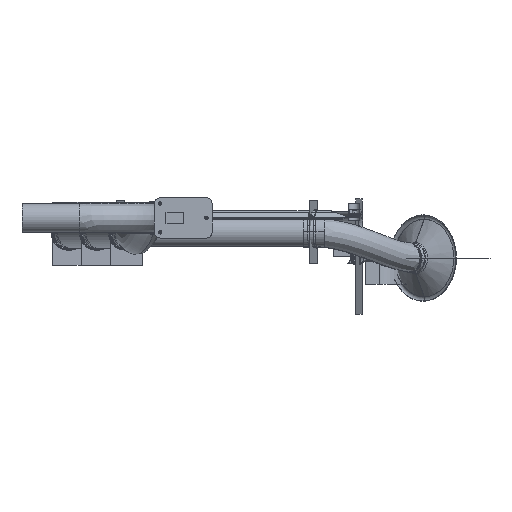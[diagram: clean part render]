
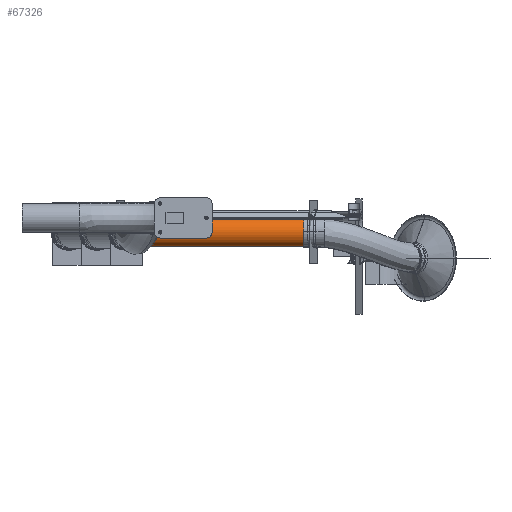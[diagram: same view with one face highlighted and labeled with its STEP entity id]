
A CAD part, left-side view. The second image highlights one B-rep face of the part: STEP entity #67326.
In plain terms, the highlighted free-form (B-spline) face has degree [3, 3] with [7, 6] control points.
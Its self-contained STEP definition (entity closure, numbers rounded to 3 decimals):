
#66357=CARTESIAN_POINT('',(1152.215,-562.358,-47.));
#66358=DIRECTION('',(0.,1.,0.));
#66359=DIRECTION('',(-0.193,0.,-0.981));
#66360=AXIS2_PLACEMENT_3D('',#66357,#66358,#66359);
#66365=CARTESIAN_POINT('',(1142.569,-562.358,
-96.061));
#66366=CARTESIAN_POINT('',(1142.569,-485.691,
-96.061));
#66367=CARTESIAN_POINT('',(1142.569,-332.358,
-96.061));
#66368=CARTESIAN_POINT('',(1142.569,-102.358,
-96.061));
#66369=CARTESIAN_POINT('',(1142.569,50.975,
-96.061));
#66370=CARTESIAN_POINT('',(1142.569,127.642,
-96.061));
#66383=CARTESIAN_POINT('',(1161.86,-562.358,
2.061));
#66384=CARTESIAN_POINT('',(1161.86,-485.691,
2.061));
#66385=CARTESIAN_POINT('',(1161.86,-332.358,
2.061));
#66386=CARTESIAN_POINT('',(1161.86,-102.358,
2.061));
#66387=CARTESIAN_POINT('',(1161.86,50.975,2.061));
#66388=CARTESIAN_POINT('',(1161.86,127.642,2.061));
#66464=CARTESIAN_POINT('',(1152.215,127.642,-47.));
#66465=DIRECTION('',(0.,1.,0.));
#66466=DIRECTION('',(-0.193,0.,-0.981));
#66467=AXIS2_PLACEMENT_3D('',#66464,#66465,#66466);
#66951=CARTESIAN_POINT('',(1161.86,-562.358,
2.061));
#66952=CARTESIAN_POINT('',(1142.569,-562.358,
-96.061));
#66953=VERTEX_POINT('',#66951);
#66954=VERTEX_POINT('',#66952);
#66955=CARTESIAN_POINT('',(1161.86,127.642,2.061));
#66956=CARTESIAN_POINT('',(1142.569,127.642,
-96.061));
#66957=VERTEX_POINT('',#66955);
#66958=VERTEX_POINT('',#66956);
#67274=CARTESIAN_POINT('',(1145.669,-576.158,
-96.57));
#67275=CARTESIAN_POINT('',(1145.669,-571.558,
-96.57));
#67276=CARTESIAN_POINT('',(1145.669,-336.958,
-96.57));
#67277=CARTESIAN_POINT('',(1145.669,-97.758,
-96.57));
#67278=CARTESIAN_POINT('',(1145.669,136.842,
-96.57));
#67279=CARTESIAN_POINT('',(1145.669,141.442,
-96.57));
#67280=CARTESIAN_POINT('',(1115.164,-576.158,
-92.541));
#67281=CARTESIAN_POINT('',(1115.164,-571.558,
-92.541));
#67282=CARTESIAN_POINT('',(1115.164,-336.958,
-92.541));
#67283=CARTESIAN_POINT('',(1115.164,-97.758,
-92.541));
#67284=CARTESIAN_POINT('',(1115.164,136.842,
-92.541));
#67285=CARTESIAN_POINT('',(1115.164,141.442,
-92.541));
#67286=CARTESIAN_POINT('',(1097.218,-576.158,
-67.546));
#67287=CARTESIAN_POINT('',(1097.218,-571.558,
-67.546));
#67288=CARTESIAN_POINT('',(1097.218,-336.958,
-67.546));
#67289=CARTESIAN_POINT('',(1097.218,-97.758,
-67.546));
#67290=CARTESIAN_POINT('',(1097.218,136.842,
-67.546));
#67291=CARTESIAN_POINT('',(1097.218,141.442,
-67.546));
#67292=CARTESIAN_POINT('',(1103.154,-576.158,
-37.355));
#67293=CARTESIAN_POINT('',(1103.154,-571.558,
-37.355));
#67294=CARTESIAN_POINT('',(1103.154,-336.958,
-37.355));
#67295=CARTESIAN_POINT('',(1103.154,-97.758,
-37.355));
#67296=CARTESIAN_POINT('',(1103.154,136.842,
-37.355));
#67297=CARTESIAN_POINT('',(1103.154,141.442,
-37.355));
#67298=CARTESIAN_POINT('',(1109.09,-576.158,
-7.163));
#67299=CARTESIAN_POINT('',(1109.09,-571.558,
-7.163));
#67300=CARTESIAN_POINT('',(1109.09,-336.958,
-7.163));
#67301=CARTESIAN_POINT('',(1109.09,-97.758,
-7.163));
#67302=CARTESIAN_POINT('',(1109.09,136.842,
-7.163));
#67303=CARTESIAN_POINT('',(1109.09,141.442,
-7.163));
#67304=CARTESIAN_POINT('',(1135.162,-576.158,
9.178));
#67305=CARTESIAN_POINT('',(1135.162,-571.558,
9.178));
#67306=CARTESIAN_POINT('',(1135.162,-336.958,
9.178));
#67307=CARTESIAN_POINT('',(1135.162,-97.758,
9.178));
#67308=CARTESIAN_POINT('',(1135.162,136.842,9.178));
#67309=CARTESIAN_POINT('',(1135.162,141.442,9.178));
#67310=CARTESIAN_POINT('',(1164.922,-576.158,
1.358));
#67311=CARTESIAN_POINT('',(1164.922,-571.558,
1.358));
#67312=CARTESIAN_POINT('',(1164.922,-336.958,
1.358));
#67313=CARTESIAN_POINT('',(1164.922,-97.758,
1.358));
#67314=CARTESIAN_POINT('',(1164.922,136.842,1.358));
#67315=CARTESIAN_POINT('',(1164.922,141.442,1.358));
#67316=(BOUNDED_SURFACE()B_SPLINE_SURFACE(3,3,((#67274,#67275,#67276,#67277,
#67278,#67279),(#67280,#67281,#67282,#67283,#67284,#67285),(#67286,#67287,
#67288,#67289,#67290,#67291),(#67292,#67293,#67294,#67295,#67296,#67297),
(#67298,#67299,#67300,#67301,#67302,#67303),(#67304,#67305,#67306,#67307,#67308,
#67309),(#67310,#67311,#67312,#67313,#67314,#67315)),.UNSPECIFIED.,.F.,.F.,.F.)B_SPLINE_SURFACE_WITH_KNOTS((4,3,4),(4,1,1,4),(0.,1.,2.),(-0.02,0.,1.,
1.02),.UNSPECIFIED.)GEOMETRIC_REPRESENTATION_ITEM()RATIONAL_B_SPLINE_SURFACE((
(1.187,1.187,1.187,1.187,
1.187,1.187),(0.938,0.938,
0.938,0.938,0.938,0.938),(
0.938,0.938,0.938,0.938,
0.938,0.938),(1.187,1.187,
1.187,1.187,1.187,1.187),(
0.938,0.938,0.938,0.938,
0.938,0.938),(0.938,0.938,
0.938,0.938,0.938,0.938),(
1.187,1.187,1.187,1.187,
1.187,1.187)))REPRESENTATION_ITEM('')SURFACE());
#67317=ORIENTED_EDGE('',*,*,#67261,.F.);
#67319=ORIENTED_EDGE('',*,*,#67318,.T.);
#67321=ORIENTED_EDGE('',*,*,#67320,.T.);
#67323=ORIENTED_EDGE('',*,*,#67322,.F.);
#67324=EDGE_LOOP('',(#67317,#67319,#67321,#67323));
#67325=FACE_OUTER_BOUND('',#67324,.F.);
#66361=CIRCLE('',#66360,50.);
#66371=B_SPLINE_CURVE_WITH_KNOTS('',3,(#66365,#66366,#66367,#66368,#66369,
#66370),.UNSPECIFIED.,.F.,.F.,(4,1,1,4),(0.,0.333,
0.667,1.),.UNSPECIFIED.);
#66389=B_SPLINE_CURVE_WITH_KNOTS('',3,(#66383,#66384,#66385,#66386,#66387,
#66388),.UNSPECIFIED.,.F.,.F.,(4,1,1,4),(0.,0.333,
0.667,1.),.UNSPECIFIED.);
#66468=CIRCLE('',#66467,50.);
#67261=EDGE_CURVE('',#66954,#66953,#66361,.T.);
#67318=EDGE_CURVE('',#66954,#66958,#66371,.T.);
#67320=EDGE_CURVE('',#66958,#66957,#66468,.T.);
#67322=EDGE_CURVE('',#66953,#66957,#66389,.T.);
#67326=ADVANCED_FACE('',(#67325),#67316,.T.);
